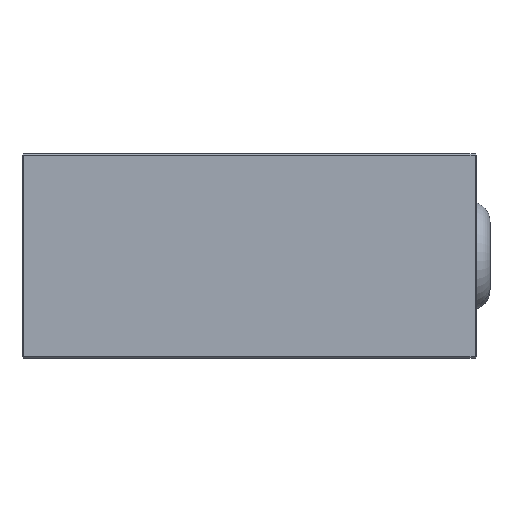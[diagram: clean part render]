
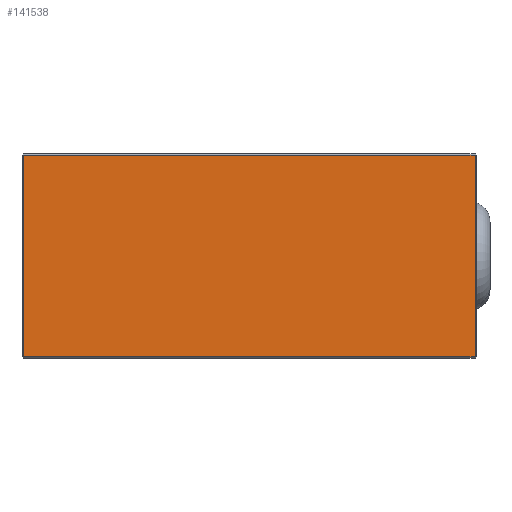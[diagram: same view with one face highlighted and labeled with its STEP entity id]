
A CAD part, front view. The second image highlights one B-rep face of the part: STEP entity #141538.
In plain terms, the highlighted planar face has unit normal (0, -1, 0).
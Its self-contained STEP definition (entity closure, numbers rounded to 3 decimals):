
#18211 = CARTESIAN_POINT ( 'NONE',  ( 52.382, -25.753, 22.2 ) ) ;
#18430 = VERTEX_POINT ( 'NONE', #18211 ) ;
#22255 = DIRECTION ( 'NONE',  ( 0., 0., 1. ) ) ;
#26482 = CARTESIAN_POINT ( 'NONE',  ( 52.682, -25.753, -22.2 ) ) ;
#26537 = CARTESIAN_POINT ( 'NONE',  ( -47.018, -25.753, 22.2 ) ) ;
#27617 = DIRECTION ( 'NONE',  ( 0., 1., 0. ) ) ;
#28349 = ORIENTED_EDGE ( 'NONE', *, *, #102308, .T. ) ;
#29239 = LINE ( 'NONE', #44791, #85411 ) ;
#29952 = EDGE_CURVE ( 'NONE', #18430, #136333, #32656, .T. ) ;
#32656 = LINE ( 'NONE', #38032, #92285 ) ;
#38032 = CARTESIAN_POINT ( 'NONE',  ( 52.682, -25.753, 22.2 ) ) ;
#39629 = EDGE_LOOP ( 'NONE', ( #45893, #28349, #77085, #108605 ) ) ;
#44791 = CARTESIAN_POINT ( 'NONE',  ( 52.382, -25.753, 22.5 ) ) ;
#45893 = ORIENTED_EDGE ( 'NONE', *, *, #51943, .T. ) ;
#49739 = PLANE ( 'NONE',  #136771 ) ;
#51943 = EDGE_CURVE ( 'NONE', #136333, #101569, #125710, .T. ) ;
#53312 = CARTESIAN_POINT ( 'NONE',  ( 52.382, -25.753, -22.2 ) ) ;
#55307 = CARTESIAN_POINT ( 'NONE',  ( -47.018, -25.753, -22.2 ) ) ;
#55962 = VERTEX_POINT ( 'NONE', #53312 ) ;
#58187 = LINE ( 'NONE', #26482, #117915 ) ;
#77085 = ORIENTED_EDGE ( 'NONE', *, *, #125459, .T. ) ;
#85411 = VECTOR ( 'NONE', #22255, 1000. ) ;
#85524 = DIRECTION ( 'NONE',  ( 0., 0., -1. ) ) ;
#92285 = VECTOR ( 'NONE', #116598, 1000. ) ;
#94829 = CARTESIAN_POINT ( 'NONE',  ( 52.682, -25.753, 22.5 ) ) ;
#95781 = VECTOR ( 'NONE', #85524, 1000. ) ;
#101569 = VERTEX_POINT ( 'NONE', #55307 ) ;
#102308 = EDGE_CURVE ( 'NONE', #101569, #55962, #58187, .T. ) ;
#105092 = DIRECTION ( 'NONE',  ( 1., 0., 0. ) ) ;
#106223 = DIRECTION ( 'NONE',  ( 0., 0., 1. ) ) ;
#108605 = ORIENTED_EDGE ( 'NONE', *, *, #29952, .T. ) ;
#116598 = DIRECTION ( 'NONE',  ( -1., 0., 0. ) ) ;
#117915 = VECTOR ( 'NONE', #105092, 1000. ) ;
#118497 = CARTESIAN_POINT ( 'NONE',  ( -47.018, -25.753, -22.5 ) ) ;
#125459 = EDGE_CURVE ( 'NONE', #55962, #18430, #29239, .T. ) ;
#125710 = LINE ( 'NONE', #118497, #95781 ) ;
#132863 = FACE_OUTER_BOUND ( 'NONE', #39629, .T. ) ;
#136333 = VERTEX_POINT ( 'NONE', #26537 ) ;
#136771 = AXIS2_PLACEMENT_3D ( 'NONE', #94829, #27617, #106223 ) ;
#141538 = ADVANCED_FACE ( 'NONE', ( #132863 ), #49739, .F. ) ;
